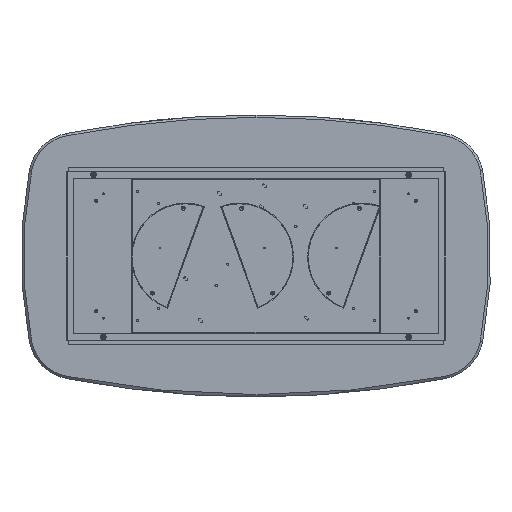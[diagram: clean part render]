
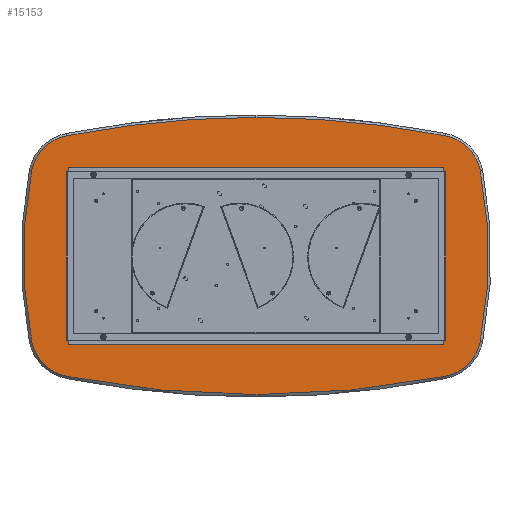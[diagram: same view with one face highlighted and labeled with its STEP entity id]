
A CAD part, front view. The second image highlights one B-rep face of the part: STEP entity #15153.
In plain terms, the highlighted planar face has unit normal (0, -1, 0).
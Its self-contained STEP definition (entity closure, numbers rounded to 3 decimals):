
#1273 = ORIENTED_EDGE ( 'NONE', *, *, #16458, .T. ) ;
#1282 = EDGE_CURVE ( 'NONE', #21217, #3305, #16521, .T. ) ;
#1307 = EDGE_CURVE ( 'NONE', #12607, #8283, #16874, .T. ) ;
#1442 = CARTESIAN_POINT ( 'NONE',  ( -804.935, 0., -511.956 ) ) ;
#1455 = EDGE_CURVE ( 'NONE', #16782, #12607, #19394, .T. ) ;
#2192 = CARTESIAN_POINT ( 'NONE',  ( -954.894, 0., -362.002 ) ) ;
#2737 = DIRECTION ( 'NONE',  ( 0., 0., 1. ) ) ;
#2830 = CARTESIAN_POINT ( 'NONE',  ( 954.894, 0., -362.002 ) ) ;
#3050 = CARTESIAN_POINT ( 'NONE',  ( -768.435, 0., 325.495 ) ) ;
#3183 = CARTESIAN_POINT ( 'NONE',  ( 768.435, 0., -325.495 ) ) ;
#3305 = VERTEX_POINT ( 'NONE', #5143 ) ;
#3457 = AXIS2_PLACEMENT_3D ( 'NONE', #8356, #6686, #4907 ) ;
#3649 = AXIS2_PLACEMENT_3D ( 'NONE', #4404, #16491, #14811 ) ;
#4071 = CIRCLE ( 'NONE', #15165, 4190. ) ;
#4339 = CARTESIAN_POINT ( 'NONE',  ( 804.935, 0., 511.956 ) ) ;
#4404 = CARTESIAN_POINT ( 'NONE',  ( 0., 0., 3600. ) ) ;
#4880 = CIRCLE ( 'NONE', #3457, 1884. ) ;
#4907 = DIRECTION ( 'NONE',  ( 0., 0., 1. ) ) ;
#4926 = FACE_OUTER_BOUND ( 'NONE', #5897, .T. ) ;
#5107 = EDGE_CURVE ( 'NONE', #21998, #20744, #4880, .T. ) ;
#5143 = CARTESIAN_POINT ( 'NONE',  ( 804.935, 0., -511.956 ) ) ;
#5155 = DIRECTION ( 'NONE',  ( 0., -1., 0. ) ) ;
#5897 = EDGE_LOOP ( 'NONE', ( #21421, #11493, #13446, #10327, #11954, #19357, #1273, #7111, #8360 ) ) ;
#5954 = CIRCLE ( 'NONE', #20612, 190. ) ;
#6376 = DIRECTION ( 'NONE',  ( 0., 0., 1. ) ) ;
#6419 = CARTESIAN_POINT ( 'NONE',  ( 0., 0., -3600. ) ) ;
#6513 = DIRECTION ( 'NONE',  ( 0., 0., 1. ) ) ;
#6662 = AXIS2_PLACEMENT_3D ( 'NONE', #17016, #14901, #6376 ) ;
#6686 = DIRECTION ( 'NONE',  ( 0., -1., 0. ) ) ;
#7111 = ORIENTED_EDGE ( 'NONE', *, *, #1455, .T. ) ;
#7235 = AXIS2_PLACEMENT_3D ( 'NONE', #13343, #5155, #21856 ) ;
#7716 = VERTEX_POINT ( 'NONE', #10284 ) ;
#7830 = CARTESIAN_POINT ( 'NONE',  ( -768.435, 0., -325.495 ) ) ;
#8283 = VERTEX_POINT ( 'NONE', #2192 ) ;
#8356 = CARTESIAN_POINT ( 'NONE',  ( -894., 0., 0. ) ) ;
#8360 = ORIENTED_EDGE ( 'NONE', *, *, #1307, .T. ) ;
#8432 = DIRECTION ( 'NONE',  ( 0., -1., 0. ) ) ;
#9513 = CARTESIAN_POINT ( 'NONE',  ( 0., 0., -3600. ) ) ;
#9762 = EDGE_CURVE ( 'NONE', #20744, #12008, #13685, .T. ) ;
#9865 = DIRECTION ( 'NONE',  ( 0., -1., 0. ) ) ;
#10284 = CARTESIAN_POINT ( 'NONE',  ( 0., 0., 590. ) ) ;
#10327 = ORIENTED_EDGE ( 'NONE', *, *, #5107, .T. ) ;
#11146 = AXIS2_PLACEMENT_3D ( 'NONE', #3050, #9865, #16722 ) ;
#11252 = EDGE_CURVE ( 'NONE', #12008, #7716, #4071, .T. ) ;
#11493 = ORIENTED_EDGE ( 'NONE', *, *, #1282, .T. ) ;
#11954 = ORIENTED_EDGE ( 'NONE', *, *, #9762, .T. ) ;
#12008 = VERTEX_POINT ( 'NONE', #4339 ) ;
#12607 = VERTEX_POINT ( 'NONE', #16190 ) ;
#12997 = DIRECTION ( 'NONE',  ( 0., -1., 0. ) ) ;
#13343 = CARTESIAN_POINT ( 'NONE',  ( 768.435, 0., 325.495 ) ) ;
#13356 = DIRECTION ( 'NONE',  ( 0., -1., 0. ) ) ;
#13446 = ORIENTED_EDGE ( 'NONE', *, *, #18659, .T. ) ;
#13469 = AXIS2_PLACEMENT_3D ( 'NONE', #3183, #8432, #16962 ) ;
#13685 = CIRCLE ( 'NONE', #7235, 190. ) ;
#14308 = CARTESIAN_POINT ( 'NONE',  ( -804.935, 0., 511.956 ) ) ;
#14678 = DIRECTION ( 'NONE',  ( 0., 0., 1. ) ) ;
#14811 = DIRECTION ( 'NONE',  ( 0., 0., 1. ) ) ;
#14901 = DIRECTION ( 'NONE',  ( 0., 1., 0. ) ) ;
#15014 = EDGE_CURVE ( 'NONE', #8283, #21217, #5954, .T. ) ;
#15153 = ADVANCED_FACE ( 'NONE', ( #4926 ), #20051, .F. ) ;
#15165 = AXIS2_PLACEMENT_3D ( 'NONE', #6419, #20211, #2737 ) ;
#16190 = CARTESIAN_POINT ( 'NONE',  ( -954.894, 0., 362.002 ) ) ;
#16359 = DIRECTION ( 'NONE',  ( 0., -1., 0. ) ) ;
#16458 = EDGE_CURVE ( 'NONE', #7716, #16782, #19961, .T. ) ;
#16491 = DIRECTION ( 'NONE',  ( 0., -1., 0. ) ) ;
#16521 = CIRCLE ( 'NONE', #3649, 4190. ) ;
#16722 = DIRECTION ( 'NONE',  ( 0., 0., 1. ) ) ;
#16782 = VERTEX_POINT ( 'NONE', #14308 ) ;
#16874 = CIRCLE ( 'NONE', #18319, 1884. ) ;
#16962 = DIRECTION ( 'NONE',  ( 0., 0., 1. ) ) ;
#17016 = CARTESIAN_POINT ( 'NONE',  ( -447., 0., 1800. ) ) ;
#18319 = AXIS2_PLACEMENT_3D ( 'NONE', #20520, #13356, #6513 ) ;
#18659 = EDGE_CURVE ( 'NONE', #3305, #21998, #20970, .T. ) ;
#19357 = ORIENTED_EDGE ( 'NONE', *, *, #11252, .T. ) ;
#19394 = CIRCLE ( 'NONE', #11146, 190. ) ;
#19835 = DIRECTION ( 'NONE',  ( 0., 0., 1. ) ) ;
#19961 = CIRCLE ( 'NONE', #20315, 4190. ) ;
#20051 = PLANE ( 'NONE',  #6662 ) ;
#20211 = DIRECTION ( 'NONE',  ( 0., -1., 0. ) ) ;
#20295 = CARTESIAN_POINT ( 'NONE',  ( 954.894, 0., 362.002 ) ) ;
#20315 = AXIS2_PLACEMENT_3D ( 'NONE', #9513, #16359, #14678 ) ;
#20520 = CARTESIAN_POINT ( 'NONE',  ( 894., 0., 0. ) ) ;
#20612 = AXIS2_PLACEMENT_3D ( 'NONE', #7830, #12997, #19835 ) ;
#20744 = VERTEX_POINT ( 'NONE', #20295 ) ;
#20970 = CIRCLE ( 'NONE', #13469, 190. ) ;
#21217 = VERTEX_POINT ( 'NONE', #1442 ) ;
#21421 = ORIENTED_EDGE ( 'NONE', *, *, #15014, .T. ) ;
#21856 = DIRECTION ( 'NONE',  ( 0., 0., 1. ) ) ;
#21998 = VERTEX_POINT ( 'NONE', #2830 ) ;
